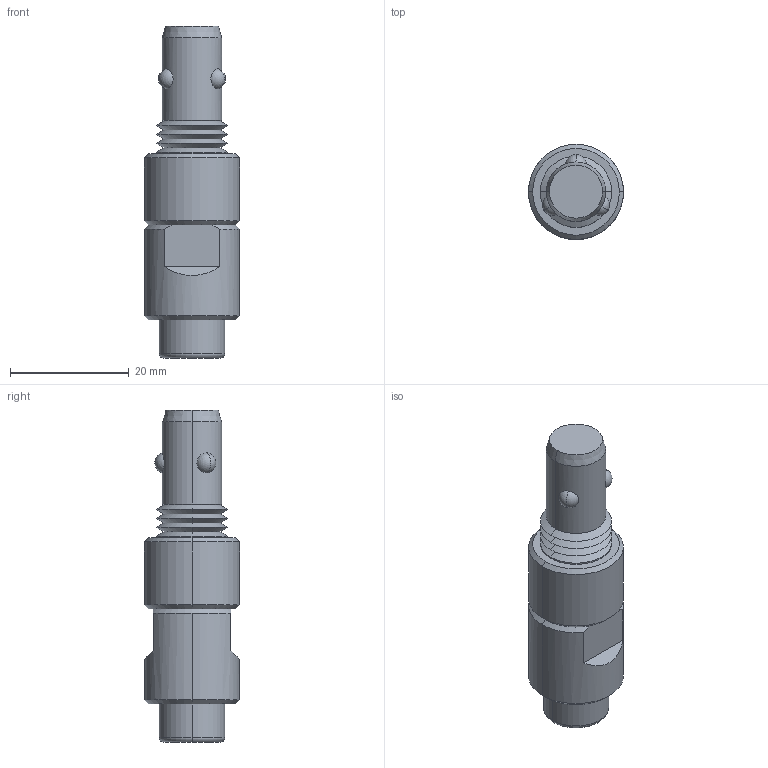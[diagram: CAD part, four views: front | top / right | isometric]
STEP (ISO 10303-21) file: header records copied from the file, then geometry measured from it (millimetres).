
FILE_DESCRIPTION (( 'STEP AP203' ), '1' );
FILE_NAME ('33914.W1610.step', '2019-10-28T13:43:31', ( '' ), ( '' ), 'SwSTEP 2.0', 'SolidWorks 2017', '' );
FILE_SCHEMA (( 'CONFIG_CONTROL_DESIGN' ));
Length unit declared in the file: millimetre
Products named in the file (1): 33914.W1610
Bounding box: 16 x 16 x 55.9 mm (x, y, z)
Volume: 7810.3 mm3; surface area: 2839.9 mm2
Topology: 1 solids, 1 shells, 55 faces, 110 edges, 62 vertices
Faces by surface type: cone 27, cylinder 10, plane 10, sphere 6, torus 2
Entity records: 1650 total; most frequent: CARTESIAN_POINT 420, DIRECTION 265, ORIENTED_EDGE 220, AXIS2_PLACEMENT_3D 111, EDGE_CURVE 110, VERTEX_POINT 62, EDGE_LOOP 60, CIRCLE 55
